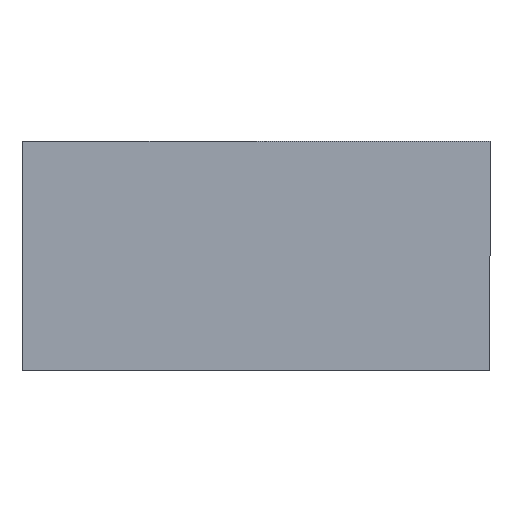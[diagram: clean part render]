
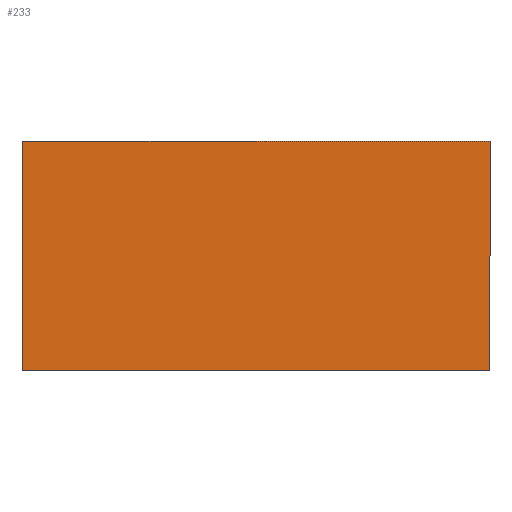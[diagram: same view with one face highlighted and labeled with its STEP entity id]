
A CAD part, front view. The second image highlights one B-rep face of the part: STEP entity #233.
In plain terms, the highlighted planar face has unit normal (0, -1, 0).
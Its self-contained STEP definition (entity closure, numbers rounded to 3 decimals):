
#5 = DIRECTION ( 'NONE',  ( 0., 0., -1. ) ) ;
#15 = CARTESIAN_POINT ( 'NONE',  ( 0., -20., 0. ) ) ;
#21 = EDGE_CURVE ( 'NONE', #217, #84, #52, .T. ) ;
#27 = VERTEX_POINT ( 'NONE', #176 ) ;
#30 = EDGE_LOOP ( 'NONE', ( #218, #177, #118, #173 ) ) ;
#51 = EDGE_CURVE ( 'NONE', #84, #160, #155, .T. ) ;
#52 = LINE ( 'NONE', #157, #143 ) ;
#60 = DIRECTION ( 'NONE',  ( 0., 1., 0. ) ) ;
#72 = PLANE ( 'NONE',  #154 ) ;
#84 = VERTEX_POINT ( 'NONE', #181 ) ;
#101 = DIRECTION ( 'NONE',  ( 1., 0., 0. ) ) ;
#102 = EDGE_CURVE ( 'NONE', #160, #27, #141, .T. ) ;
#112 = DIRECTION ( 'NONE',  ( 0., 0., 1. ) ) ;
#117 = EDGE_CURVE ( 'NONE', #27, #217, #182, .T. ) ;
#118 = ORIENTED_EDGE ( 'NONE', *, *, #51, .F. ) ;
#120 = DIRECTION ( 'NONE',  ( 0., 0., 1. ) ) ;
#124 = CARTESIAN_POINT ( 'NONE',  ( -500., -20., -245. ) ) ;
#129 = CARTESIAN_POINT ( 'NONE',  ( -500., -20., 245. ) ) ;
#141 = LINE ( 'NONE', #220, #174 ) ;
#143 = VECTOR ( 'NONE', #101, 1000. ) ;
#144 = DIRECTION ( 'NONE',  ( -1., 0., 0. ) ) ;
#145 = FACE_OUTER_BOUND ( 'NONE', #30, .T. ) ;
#154 = AXIS2_PLACEMENT_3D ( 'NONE', #15, #60, #112 ) ;
#155 = LINE ( 'NONE', #193, #179 ) ;
#157 = CARTESIAN_POINT ( 'NONE',  ( -500., -20., 245. ) ) ;
#160 = VERTEX_POINT ( 'NONE', #234 ) ;
#167 = VECTOR ( 'NONE', #120, 1000. ) ;
#173 = ORIENTED_EDGE ( 'NONE', *, *, #21, .F. ) ;
#174 = VECTOR ( 'NONE', #144, 1000. ) ;
#176 = CARTESIAN_POINT ( 'NONE',  ( -500., -20., -245. ) ) ;
#177 = ORIENTED_EDGE ( 'NONE', *, *, #102, .F. ) ;
#179 = VECTOR ( 'NONE', #5, 1000. ) ;
#181 = CARTESIAN_POINT ( 'NONE',  ( 500., -20., 245. ) ) ;
#182 = LINE ( 'NONE', #124, #167 ) ;
#193 = CARTESIAN_POINT ( 'NONE',  ( 500., -20., -245. ) ) ;
#217 = VERTEX_POINT ( 'NONE', #129 ) ;
#218 = ORIENTED_EDGE ( 'NONE', *, *, #117, .F. ) ;
#220 = CARTESIAN_POINT ( 'NONE',  ( -500., -20., -245. ) ) ;
#233 = ADVANCED_FACE ( 'NONE', ( #145 ), #72, .F. ) ;
#234 = CARTESIAN_POINT ( 'NONE',  ( 500., -20., -245. ) ) ;
